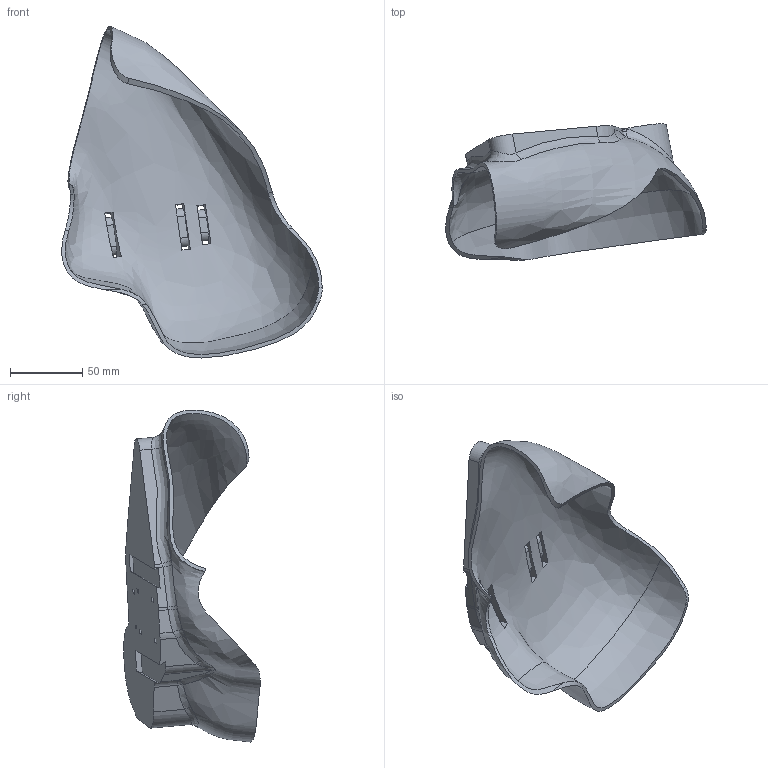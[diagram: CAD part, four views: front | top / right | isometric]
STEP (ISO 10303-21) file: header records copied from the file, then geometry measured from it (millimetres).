
FILE_DESCRIPTION(/* description */ ('STEP AP242','CAx-IF Rec.Pracs.---Representation and Presentation of Product Manufacturing Information (PMI)---4.0---2014-10-13','CAx-IF Rec.Pracs.---3D Tessellated Geometry---0.4---2014-09-14','2;1'),/* implementation_level */ '2;1');
FILE_NAME(/* name */ '65ded18fc68ba23d61067e5c',/* time_stamp */ '2024-02-28T06:24:15Z',/* author */ (''),/* organization */ (''),/* preprocessor_version */ 'ST-DEVELOPER v19.4',/* originating_system */ ' ',/* authorisation */ ' ');
FILE_SCHEMA (('AP242_MANAGED_MODEL_BASED_3D_ENGINEERING_MIM_LF { 1 0 10303 442 1 1 4 }'));
Length unit declared in the file: metre
Products named in the file (1): Duct 1R
Bounding box: 180.93 x 94.73 x 230.45 mm (x, y, z)
Volume: 272483.9 mm3; surface area: 97931 mm2
Topology: 1 solids, 1 shells, 91 faces, 250 edges, 157 vertices
Faces by surface type: plane 42, bspline 26, cylinder 22, sphere 1
Entity records: 5688 total; most frequent: CARTESIAN_POINT 3573, ORIENTED_EDGE 496, DIRECTION 347, EDGE_CURVE 248, VERTEX_POINT 157, LINE 117, VECTOR 117, AXIS2_PLACEMENT_3D 115
